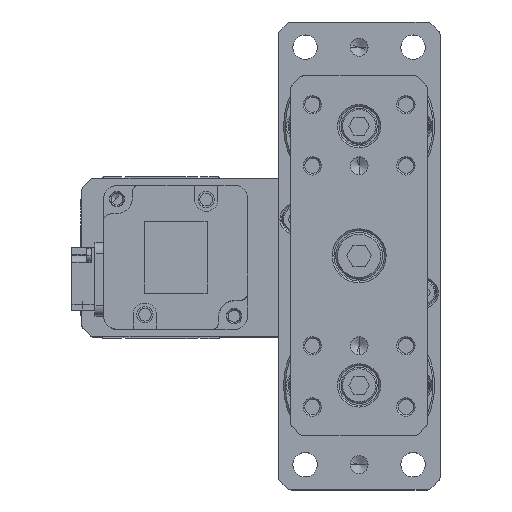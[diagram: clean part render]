
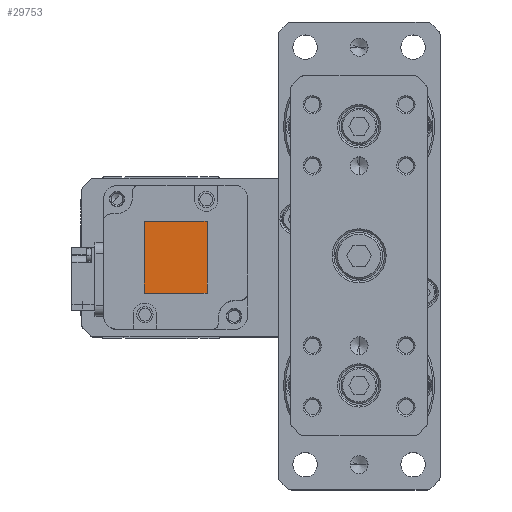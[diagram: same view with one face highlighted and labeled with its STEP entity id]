
A CAD part, top view. The second image highlights one B-rep face of the part: STEP entity #29753.
In plain terms, the highlighted planar face has unit normal (0, 0, 1) as drawn and (0, 0, -1) by its records, which use the part's own axes.
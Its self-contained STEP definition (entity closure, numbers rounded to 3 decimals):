
#853 = VECTOR ( 'NONE', #14150, 1000. ) ;
#1794 = ORIENTED_EDGE ( 'NONE', *, *, #5664, .T. ) ;
#4539 = VECTOR ( 'NONE', #40526, 1000. ) ;
#5664 = EDGE_CURVE ( 'NONE', #26101, #42103, #9640, .T. ) ;
#7211 = CARTESIAN_POINT ( 'NONE',  ( -10., 8.75, -82.6 ) ) ;
#7954 = DIRECTION ( 'NONE',  ( 0., 0., 1. ) ) ;
#8464 = CARTESIAN_POINT ( 'NONE',  ( 10., 8.75, -82.6 ) ) ;
#8825 = ORIENTED_EDGE ( 'NONE', *, *, #25504, .T. ) ;
#9063 = DIRECTION ( 'NONE',  ( -1., 0., 0. ) ) ;
#9572 = AXIS2_PLACEMENT_3D ( 'NONE', #27912, #7954, #31295 ) ;
#9640 = LINE ( 'NONE', #24068, #853 ) ;
#14150 = DIRECTION ( 'NONE',  ( 1., 0., 0. ) ) ;
#14428 = EDGE_CURVE ( 'NONE', #39781, #38044, #39944, .T. ) ;
#15191 = EDGE_CURVE ( 'NONE', #42103, #39781, #27398, .T. ) ;
#16365 = CARTESIAN_POINT ( 'NONE',  ( 10., -8.75, -82.6 ) ) ;
#17782 = ORIENTED_EDGE ( 'NONE', *, *, #14428, .T. ) ;
#19585 = VECTOR ( 'NONE', #26891, 1000. ) ;
#22392 = CARTESIAN_POINT ( 'NONE',  ( -10., -8.75, -82.6 ) ) ;
#24068 = CARTESIAN_POINT ( 'NONE',  ( 10., 8.75, -82.6 ) ) ;
#24075 = CARTESIAN_POINT ( 'NONE',  ( -10., -8.75, -82.6 ) ) ;
#25504 = EDGE_CURVE ( 'NONE', #38044, #26101, #38899, .T. ) ;
#26101 = VERTEX_POINT ( 'NONE', #37871 ) ;
#26497 = EDGE_LOOP ( 'NONE', ( #8825, #1794, #31112, #17782 ) ) ;
#26891 = DIRECTION ( 'NONE',  ( 0., -1., 0. ) ) ;
#27398 = LINE ( 'NONE', #33576, #19585 ) ;
#27912 = CARTESIAN_POINT ( 'NONE',  ( 0., 0., -82.6 ) ) ;
#29753 = ADVANCED_FACE ( 'NONE', ( #36978 ), #41145, .F. ) ;
#30088 = VECTOR ( 'NONE', #9063, 1000. ) ;
#31112 = ORIENTED_EDGE ( 'NONE', *, *, #15191, .T. ) ;
#31295 = DIRECTION ( 'NONE',  ( 1., 0., 0. ) ) ;
#33576 = CARTESIAN_POINT ( 'NONE',  ( 10., -8.75, -82.6 ) ) ;
#36978 = FACE_OUTER_BOUND ( 'NONE', #26497, .T. ) ;
#37871 = CARTESIAN_POINT ( 'NONE',  ( -10., 8.75, -82.6 ) ) ;
#38044 = VERTEX_POINT ( 'NONE', #24075 ) ;
#38899 = LINE ( 'NONE', #7211, #4539 ) ;
#39781 = VERTEX_POINT ( 'NONE', #16365 ) ;
#39944 = LINE ( 'NONE', #22392, #30088 ) ;
#40526 = DIRECTION ( 'NONE',  ( 0., 1., 0. ) ) ;
#41145 = PLANE ( 'NONE',  #9572 ) ;
#42103 = VERTEX_POINT ( 'NONE', #8464 ) ;
